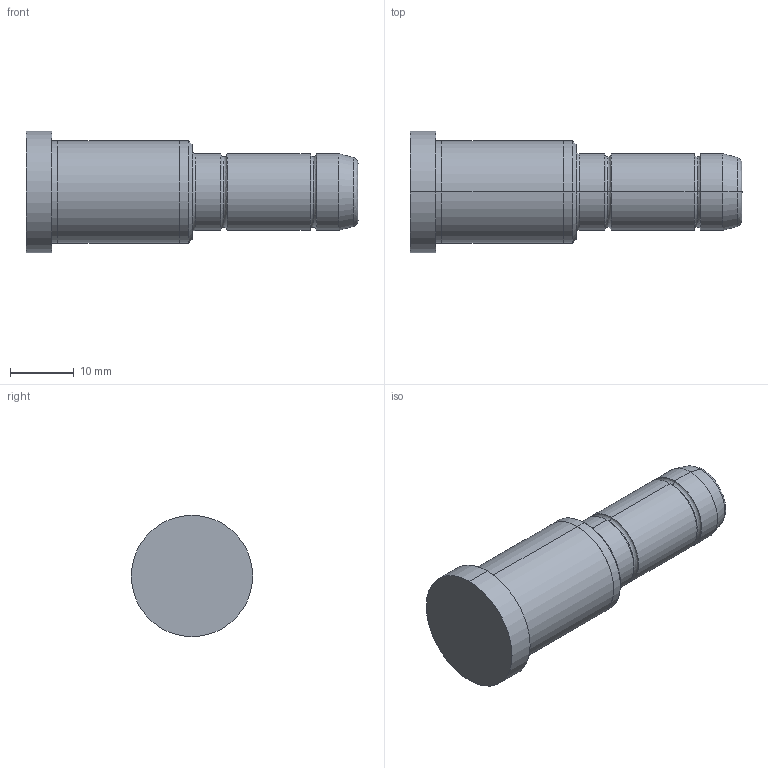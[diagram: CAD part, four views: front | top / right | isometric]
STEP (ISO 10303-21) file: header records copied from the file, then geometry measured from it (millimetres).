
FILE_DESCRIPTION( ( 'STEP AP203' ), '1' );
FILE_NAME( 'D:/Delta 3 D/D02/12/D02 - 12x26x26.step', '2003-01-04T12:29:08', ( ' ' ), ( ' ' ), 'XStep 1.0', ' ', ' ' );
FILE_SCHEMA( ( 'CONFIG_CONTROL_DESIGN' ) );
Length unit declared in the file: metre
Products named in the file (1): 1
Bounding box: 52 x 19 x 19 mm (x, y, z)
Volume: 8427.9 mm3; surface area: 2868 mm2
Topology: 1 solids, 1 shells, 36 faces, 70 edges, 40 vertices
Faces by surface type: bspline 18, revolution 18
Entity records: 1127 total; most frequent: CARTESIAN_POINT 417, ORIENTED_EDGE 140, DIRECTION 118, EDGE_CURVE 70, AXIS2_PLACEMENT_3D 41, EDGE_LOOP 40, VERTEX_POINT 40, CIRCLE 40
